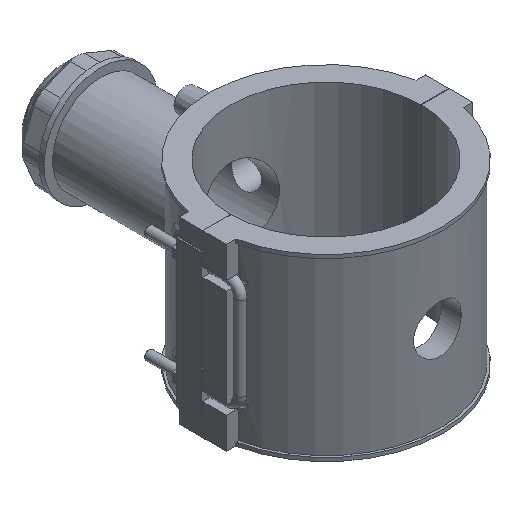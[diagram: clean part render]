
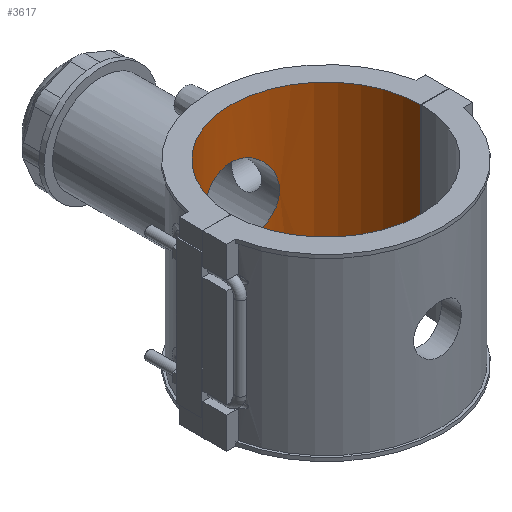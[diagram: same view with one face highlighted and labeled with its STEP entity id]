
A CAD part, isometric view. The second image highlights one B-rep face of the part: STEP entity #3617.
In plain terms, the highlighted cylindrical face has radius 62.5 mm (diameter 125 mm), a partial arc.
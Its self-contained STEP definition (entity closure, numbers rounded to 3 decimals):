
#278=LINE('',#7018,#577);
#338=LINE('',#7432,#637);
#577=VECTOR('',#4668,118.);
#637=VECTOR('',#4884,118.);
#887=CIRCLE('',#3942,62.5);
#888=CIRCLE('',#3944,62.5);
#940=FACE_BOUND('',#1407,.T.);
#1147=FACE_OUTER_BOUND('',#1406,.T.);
#1406=EDGE_LOOP('',(#3347,#3348,#3349,#3350));
#1407=EDGE_LOOP('',(#3351));
#1409=B_SPLINE_CURVE_WITH_KNOTS('',3,(#4903,#4904,#4905,#4906,#4907,#4908,
#4909,#4910,#4911,#4912,#4913,#4914,#4915,#4916,#4917,#4918,#4919,#4920,
#4921,#4922,#4923,#4924,#4925,#4926,#4927,#4928,#4929,#4930,#4931,#4932,
#4933,#4934,#4935,#4936,#4937,#4938,#4939,#4940,#4941,#4942,#4943,#4944,
#4945,#4946,#4947,#4948,#4949,#4950,#4951,#4952,#4953,#4954,#4955,#4956,
#4957,#4958,#4959,#4960,#4961,#4962,#4963,#4964,#4965,#4966,#4967,#4968),
 .UNSPECIFIED.,.T.,.F.,(4,2,2,2,2,2,2,2,2,2,2,2,2,2,2,2,2,2,2,2,2,2,2,2,
2,2,2,2,2,2,2,2,4),(0.,0.502,1.003,1.505,
2.006,2.507,3.008,3.509,4.01,
4.511,5.012,5.513,6.014,6.515,
7.017,7.518,8.02,8.521,9.023,
9.524,10.026,10.527,11.028,11.529,
12.03,12.531,13.031,13.532,14.033,
14.535,15.036,15.538,16.039),
 .UNSPECIFIED.);
#1490=VERTEX_POINT('',#4902);
#1766=VERTEX_POINT('',#7015);
#1767=VERTEX_POINT('',#7017);
#1824=VERTEX_POINT('',#7429);
#1825=VERTEX_POINT('',#7431);
#1827=EDGE_CURVE('',#1490,#1490,#1409,.T.);
#2222=EDGE_CURVE('',#1767,#1766,#278,.T.);
#2324=EDGE_CURVE('',#1825,#1824,#338,.T.);
#2327=EDGE_CURVE('',#1767,#1824,#887,.T.);
#2328=EDGE_CURVE('',#1825,#1766,#888,.T.);
#3347=ORIENTED_EDGE('',*,*,#2324,.T.);
#3348=ORIENTED_EDGE('',*,*,#2327,.F.);
#3349=ORIENTED_EDGE('',*,*,#2222,.T.);
#3350=ORIENTED_EDGE('',*,*,#2328,.F.);
#3351=ORIENTED_EDGE('',*,*,#1827,.T.);
#3410=CYLINDRICAL_SURFACE('',#3945,62.5);
#3617=ADVANCED_FACE('',(#1147,#940),#3410,.F.);
#3942=AXIS2_PLACEMENT_3D('',#7437,#4889,#4890);
#3944=AXIS2_PLACEMENT_3D('',#7439,#4893,#4894);
#3945=AXIS2_PLACEMENT_3D('',#7441,#4896,#4897);
#4668=DIRECTION('',(0.,0.,-1.));
#4884=DIRECTION('',(0.,0.,1.));
#4889=DIRECTION('center_axis',(0.,0.,-1.));
#4890=DIRECTION('ref_axis',(-1.,0.,0.));
#4893=DIRECTION('center_axis',(0.,0.,1.));
#4894=DIRECTION('ref_axis',(-1.,0.,0.));
#4896=DIRECTION('center_axis',(0.,0.,1.));
#4897=DIRECTION('ref_axis',(-1.,0.,0.));
#4902=CARTESIAN_POINT('',(-26.25,56.72,0.));
#4903=CARTESIAN_POINT('Ctrl Pts',(-26.25,56.72,0.));
#4904=CARTESIAN_POINT('Ctrl Pts',(-26.25,56.72,1.672));
#4905=CARTESIAN_POINT('Ctrl Pts',(-26.088,56.796,3.393));
#4906=CARTESIAN_POINT('Ctrl Pts',(-25.413,57.101,6.802));
#4907=CARTESIAN_POINT('Ctrl Pts',(-24.901,57.33,8.49));
#4908=CARTESIAN_POINT('Ctrl Pts',(-23.555,57.896,11.716));
#4909=CARTESIAN_POINT('Ctrl Pts',(-22.721,58.233,13.257));
#4910=CARTESIAN_POINT('Ctrl Pts',(-20.802,58.946,16.103));
#4911=CARTESIAN_POINT('Ctrl Pts',(-19.716,59.321,17.407));
#4912=CARTESIAN_POINT('Ctrl Pts',(-17.408,60.039,19.715));
#4913=CARTESIAN_POINT('Ctrl Pts',(-16.105,60.407,20.8));
#4914=CARTESIAN_POINT('Ctrl Pts',(-13.259,61.095,22.72));
#4915=CARTESIAN_POINT('Ctrl Pts',(-11.717,61.414,23.555));
#4916=CARTESIAN_POINT('Ctrl Pts',(-8.488,61.942,24.901));
#4917=CARTESIAN_POINT('Ctrl Pts',(-6.799,62.153,25.414));
#4918=CARTESIAN_POINT('Ctrl Pts',(-3.39,62.431,26.088));
#4919=CARTESIAN_POINT('Ctrl Pts',(-1.67,62.5,26.25));
#4920=CARTESIAN_POINT('Ctrl Pts',(1.67,62.5,26.25));
#4921=CARTESIAN_POINT('Ctrl Pts',(3.39,62.431,26.088));
#4922=CARTESIAN_POINT('Ctrl Pts',(6.799,62.153,25.414));
#4923=CARTESIAN_POINT('Ctrl Pts',(8.488,61.942,24.901));
#4924=CARTESIAN_POINT('Ctrl Pts',(11.717,61.414,23.555));
#4925=CARTESIAN_POINT('Ctrl Pts',(13.259,61.095,22.72));
#4926=CARTESIAN_POINT('Ctrl Pts',(16.105,60.407,20.8));
#4927=CARTESIAN_POINT('Ctrl Pts',(17.408,60.039,19.715));
#4928=CARTESIAN_POINT('Ctrl Pts',(19.716,59.321,17.407));
#4929=CARTESIAN_POINT('Ctrl Pts',(20.802,58.946,16.103));
#4930=CARTESIAN_POINT('Ctrl Pts',(22.721,58.233,13.257));
#4931=CARTESIAN_POINT('Ctrl Pts',(23.555,57.896,11.716));
#4932=CARTESIAN_POINT('Ctrl Pts',(24.901,57.33,8.49));
#4933=CARTESIAN_POINT('Ctrl Pts',(25.413,57.101,6.802));
#4934=CARTESIAN_POINT('Ctrl Pts',(26.088,56.796,3.393));
#4935=CARTESIAN_POINT('Ctrl Pts',(26.25,56.72,1.672));
#4936=CARTESIAN_POINT('Ctrl Pts',(26.25,56.72,-1.672));
#4937=CARTESIAN_POINT('Ctrl Pts',(26.088,56.796,-3.393));
#4938=CARTESIAN_POINT('Ctrl Pts',(25.413,57.101,-6.802));
#4939=CARTESIAN_POINT('Ctrl Pts',(24.901,57.33,-8.49));
#4940=CARTESIAN_POINT('Ctrl Pts',(23.555,57.896,-11.716));
#4941=CARTESIAN_POINT('Ctrl Pts',(22.721,58.233,-13.257));
#4942=CARTESIAN_POINT('Ctrl Pts',(20.802,58.946,-16.103));
#4943=CARTESIAN_POINT('Ctrl Pts',(19.716,59.321,-17.407));
#4944=CARTESIAN_POINT('Ctrl Pts',(17.408,60.039,-19.715));
#4945=CARTESIAN_POINT('Ctrl Pts',(16.105,60.407,-20.8));
#4946=CARTESIAN_POINT('Ctrl Pts',(13.259,61.095,-22.72));
#4947=CARTESIAN_POINT('Ctrl Pts',(11.717,61.414,-23.555));
#4948=CARTESIAN_POINT('Ctrl Pts',(8.488,61.942,-24.901));
#4949=CARTESIAN_POINT('Ctrl Pts',(6.799,62.153,-25.414));
#4950=CARTESIAN_POINT('Ctrl Pts',(3.39,62.431,-26.088));
#4951=CARTESIAN_POINT('Ctrl Pts',(1.67,62.5,-26.25));
#4952=CARTESIAN_POINT('Ctrl Pts',(-1.67,62.5,-26.25));
#4953=CARTESIAN_POINT('Ctrl Pts',(-3.39,62.431,-26.088));
#4954=CARTESIAN_POINT('Ctrl Pts',(-6.799,62.153,-25.414));
#4955=CARTESIAN_POINT('Ctrl Pts',(-8.488,61.942,-24.901));
#4956=CARTESIAN_POINT('Ctrl Pts',(-11.717,61.414,-23.555));
#4957=CARTESIAN_POINT('Ctrl Pts',(-13.259,61.095,-22.72));
#4958=CARTESIAN_POINT('Ctrl Pts',(-16.105,60.407,-20.8));
#4959=CARTESIAN_POINT('Ctrl Pts',(-17.408,60.039,-19.715));
#4960=CARTESIAN_POINT('Ctrl Pts',(-19.716,59.321,-17.407));
#4961=CARTESIAN_POINT('Ctrl Pts',(-20.802,58.946,-16.103));
#4962=CARTESIAN_POINT('Ctrl Pts',(-22.721,58.233,-13.257));
#4963=CARTESIAN_POINT('Ctrl Pts',(-23.555,57.896,-11.716));
#4964=CARTESIAN_POINT('Ctrl Pts',(-24.901,57.33,-8.49));
#4965=CARTESIAN_POINT('Ctrl Pts',(-25.413,57.101,-6.802));
#4966=CARTESIAN_POINT('Ctrl Pts',(-26.088,56.796,-3.393));
#4967=CARTESIAN_POINT('Ctrl Pts',(-26.25,56.72,-1.672));
#4968=CARTESIAN_POINT('Ctrl Pts',(-26.25,56.72,0.));
#7015=CARTESIAN_POINT('',(-62.5,0.05,-59.));
#7017=CARTESIAN_POINT('',(-62.5,0.05,59.));
#7018=CARTESIAN_POINT('',(-62.5,0.05,0.));
#7429=CARTESIAN_POINT('',(62.5,0.05,59.));
#7431=CARTESIAN_POINT('',(62.5,0.05,-59.));
#7432=CARTESIAN_POINT('',(62.5,0.05,0.));
#7437=CARTESIAN_POINT('Origin',(0.,0.,59.));
#7439=CARTESIAN_POINT('Origin',(0.,0.,-59.));
#7441=CARTESIAN_POINT('Origin',(0.,0.,0.));
